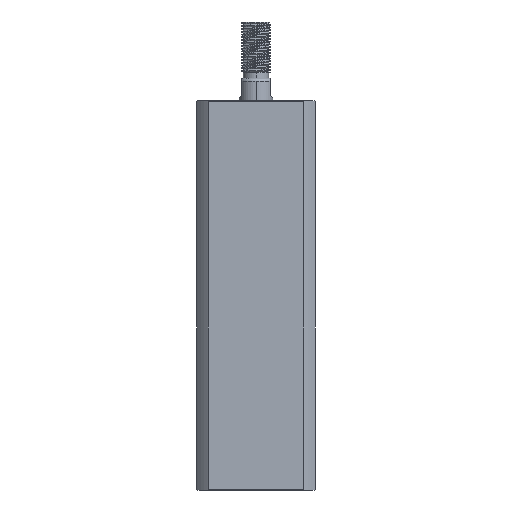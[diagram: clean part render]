
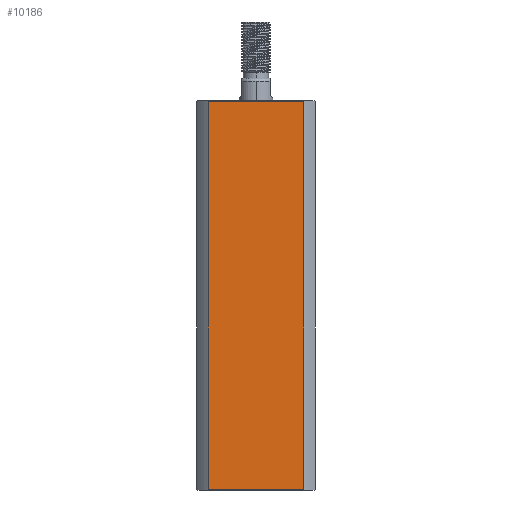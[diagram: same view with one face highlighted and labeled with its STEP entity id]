
A CAD part, left-side view. The second image highlights one B-rep face of the part: STEP entity #10186.
In plain terms, the highlighted planar face has unit normal (-1, 0, 0).
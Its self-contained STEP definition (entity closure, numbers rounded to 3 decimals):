
#250 = EDGE_CURVE ( 'NONE', #3134, #12851, #2795, .T. ) ;
#938 = CARTESIAN_POINT ( 'NONE',  ( -21., -16.971, -1362. ) ) ;
#1622 = CARTESIAN_POINT ( 'NONE',  ( -21., -16.971, 0.3 ) ) ;
#1981 = VECTOR ( 'NONE', #6077, 1000. ) ;
#2500 = DIRECTION ( 'NONE',  ( 0., 0., 1. ) ) ;
#2596 = CARTESIAN_POINT ( 'NONE',  ( -21., 16.971, -1362. ) ) ;
#2795 = LINE ( 'NONE', #14623, #14775 ) ;
#2965 = EDGE_CURVE ( 'NONE', #7440, #12851, #8347, .T. ) ;
#3134 = VERTEX_POINT ( 'NONE', #12759 ) ;
#4127 = ORIENTED_EDGE ( 'NONE', *, *, #2965, .F. ) ;
#4574 = EDGE_CURVE ( 'NONE', #3134, #13584, #14472, .T. ) ;
#4900 = DIRECTION ( 'NONE',  ( 0., 1., 0. ) ) ;
#4967 = AXIS2_PLACEMENT_3D ( 'NONE', #9936, #8794, #12263 ) ;
#6077 = DIRECTION ( 'NONE',  ( 0., -1., 0. ) ) ;
#7440 = VERTEX_POINT ( 'NONE', #9881 ) ;
#8173 = ORIENTED_EDGE ( 'NONE', *, *, #13563, .T. ) ;
#8322 = ORIENTED_EDGE ( 'NONE', *, *, #250, .T. ) ;
#8347 = LINE ( 'NONE', #2596, #14134 ) ;
#8687 = VECTOR ( 'NONE', #8988, 1000. ) ;
#8794 = DIRECTION ( 'NONE',  ( 1., 0., 0. ) ) ;
#8988 = DIRECTION ( 'NONE',  ( 0., 0., -1. ) ) ;
#9881 = CARTESIAN_POINT ( 'NONE',  ( -21., 16.971, 0.3 ) ) ;
#9936 = CARTESIAN_POINT ( 'NONE',  ( -21., 21., 138. ) ) ;
#10186 = ADVANCED_FACE ( 'NONE', ( #11087 ), #11084, .F. ) ;
#10492 = EDGE_LOOP ( 'NONE', ( #4127, #8173, #14304, #8322 ) ) ;
#11084 = PLANE ( 'NONE',  #4967 ) ;
#11087 = FACE_OUTER_BOUND ( 'NONE', #10492, .T. ) ;
#12263 = DIRECTION ( 'NONE',  ( 0., 1., 0. ) ) ;
#12759 = CARTESIAN_POINT ( 'NONE',  ( -21., -16.971, 137.7 ) ) ;
#12842 = CARTESIAN_POINT ( 'NONE',  ( -21., 16.971, 137.7 ) ) ;
#12851 = VERTEX_POINT ( 'NONE', #12842 ) ;
#13062 = CARTESIAN_POINT ( 'NONE',  ( -21., 21., 0.3 ) ) ;
#13563 = EDGE_CURVE ( 'NONE', #7440, #13584, #14257, .T. ) ;
#13584 = VERTEX_POINT ( 'NONE', #1622 ) ;
#14134 = VECTOR ( 'NONE', #2500, 1000. ) ;
#14257 = LINE ( 'NONE', #13062, #1981 ) ;
#14304 = ORIENTED_EDGE ( 'NONE', *, *, #4574, .F. ) ;
#14472 = LINE ( 'NONE', #938, #8687 ) ;
#14623 = CARTESIAN_POINT ( 'NONE',  ( -21., 21., 137.7 ) ) ;
#14775 = VECTOR ( 'NONE', #4900, 1000. ) ;
